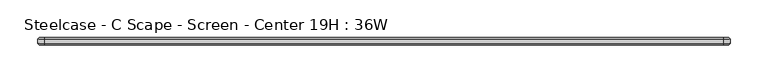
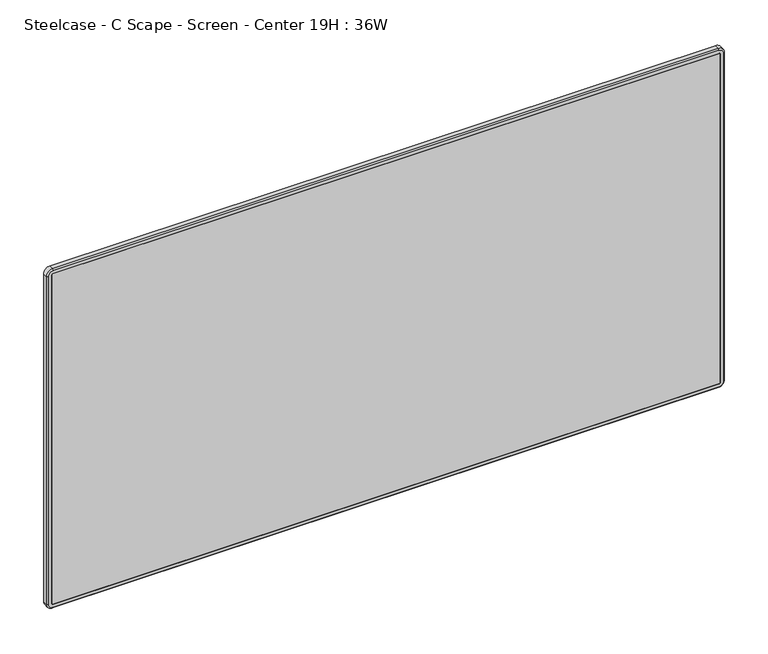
"""IFC4 building model written with IfcOpenShell, lengths in millimetres: furniture geometry, Steelcase - C Scape - Screen - Center 19H : 36W."""

from ifc_helpers import new_model, si_unit, frame, origin, place, context, project, spatial, polyline, circle_curve, outline, extrude, source, transform, mapped, element, save
from ifc_brep_helpers import plane_surface, cylinder_surface, revolved_surface, advanced_brep


def steelcase_c_scape_screen_center_19h_36w_7ab424b2(model_context):
    return source(origin(), model_context, "Body", "SolidModel", [
        advanced_brep(
        [(6.3501994, -7.9375, 1222.6655677), (8.21859, -7.9375, 1224.5339583), (8.21859, -17.4625, 1224.5339583), (6.3501994, -17.4625, 1222.6655677), (0.0002237, -9.6896209, 1222.6655677), (8.21859, -9.6896209, 1230.8839341), (8.21859, -7.9375, 1229.1318132), (1.7523445, -7.9375, 1222.6655677), (0.0002237, -15.7098203, 1222.6655677), (8.21859, -15.7098203, 1230.8839341), (1.7529034, -17.4625, 1222.6655677), (8.21859, -17.4625, 1229.1312544), (6.3501994, -17.4625, 756.5023005), (6.3501994, -7.9375, 756.5023005), (1.7523445, -7.9375, 756.5023005), (0.0002237, -9.6896209, 756.5023005), (0.0002237, -15.7098203, 756.5023005), (1.7529034, -17.4625, 756.5023005), (8.21859, -7.9375, 754.6339099), (8.21859, -17.4625, 754.6339099), (8.21859, -9.6896209, 748.2839341), (8.21859, -7.9375, 750.036055), (8.21859, -15.7098203, 748.2839341), (8.21859, -17.4625, 750.0366139), (903.006615, -17.4625, 754.6339099), (903.006615, -7.9375, 754.6339099), (903.006615, -7.9375, 750.036055), (903.006615, -9.6896209, 748.2839341), (903.006615, -15.7098203, 748.2839341), (903.006615, -17.4625, 750.0366139), (904.8750056, -7.9375, 756.5023005), (904.8750056, -17.4625, 756.5023005), (911.2249814, -9.6896209, 756.5023005), (909.4728605, -7.9375, 756.5023005), (911.2249814, -15.7098203, 756.5023005), (909.4723017, -17.4625, 756.5023005), (904.8750056, -17.4625, 1222.6655677), (904.8750056, -7.9375, 1222.6655677), (909.4728605, -7.9375, 1222.6655677), (911.2249814, -9.6896209, 1222.6655677), (911.2249814, -15.7098203, 1222.6655677), (909.4723017, -17.4625, 1222.6655677), (903.006615, -7.9375, 1224.5339583), (903.006615, -17.4625, 1224.5339583), (903.006615, -7.9375, 1229.1318132), (903.006615, -9.6896209, 1230.8839341), (903.006615, -15.7098203, 1230.8839341), (903.006615, -17.4625, 1229.1312544)],
        [
            (0, 1, circle_curve(frame((8.21859, -7.9375, 1222.6655677), z_axis=(0.0, 1.0, 0.0), x_axis=(0.0, 0.0, 1.0)), 1.8683906)),
            (1, 2),
            (2, 3, circle_curve(frame((8.21859, -17.4625, 1222.6655677), z_axis=(0.0, -1.0, 0.0), x_axis=(0.0, 0.0, 1.0)), 1.8683906)),
            (3, 0),
            (4, 5, circle_curve(frame((8.21859, -9.6896209, 1222.6655677), z_axis=(0.0, 1.0, 0.0), x_axis=(0.0, 0.0, 1.0)), 8.2183664)),
            (5, 6),
            (6, 7, circle_curve(frame((8.21859, -7.9375, 1222.6655677), z_axis=(0.0, -1.0, 0.0), x_axis=(0.0, 0.0, 1.0)), 6.4662455)),
            (7, 4),
            (8, 9, circle_curve(frame((8.21859, -15.7098203, 1222.6655677), z_axis=(0.0, 1.0, 0.0), x_axis=(0.0, 0.0, 1.0)), 8.2183664)),
            (9, 5),
            (4, 8),
            (10, 11, circle_curve(frame((8.21859, -17.4625, 1222.6655677), z_axis=(0.0, 1.0, 0.0), x_axis=(0.0, 0.0, 1.0)), 6.4656866)),
            (11, 9),
            (8, 10),
            (3, 12),
            (12, 13),
            (13, 0),
            (7, 14),
            (14, 15),
            (15, 4),
            (15, 16),
            (16, 8),
            (16, 17),
            (17, 10),
            (18, 13, circle_curve(frame((8.21859, -7.9375, 756.5023005), z_axis=(0.0, 1.0, 0.0), x_axis=(-1.0, 0.0, 0.0)), 1.8683906)),
            (12, 19, circle_curve(frame((8.21859, -17.4625, 756.5023005), z_axis=(0.0, -1.0, 0.0), x_axis=(-1.0, 0.0, 0.0)), 1.8683906)),
            (19, 18),
            (20, 15, circle_curve(frame((8.21859, -9.6896209, 756.5023005), z_axis=(0.0, 1.0, 0.0), x_axis=(-1.0, 0.0, 0.0)), 8.2183664)),
            (14, 21, circle_curve(frame((8.21859, -7.9375, 756.5023005), z_axis=(0.0, -1.0, 0.0), x_axis=(-1.0, 0.0, 0.0)), 6.4662455)),
            (21, 20),
            (22, 16, circle_curve(frame((8.21859, -15.7098203, 756.5023005), z_axis=(0.0, 1.0, 0.0), x_axis=(-1.0, 0.0, 0.0)), 8.2183664)),
            (20, 22),
            (23, 17, circle_curve(frame((8.21859, -17.4625, 756.5023005), z_axis=(0.0, 1.0, 0.0), x_axis=(-1.0, 0.0, 0.0)), 6.4656866)),
            (22, 23),
            (19, 24),
            (24, 25),
            (25, 18),
            (21, 26),
            (26, 27),
            (27, 20),
            (27, 28),
            (28, 22),
            (28, 29),
            (29, 23),
            (30, 25, circle_curve(frame((903.006615, -7.9375, 756.5023005), z_axis=(0.0, 1.0, 0.0), x_axis=(0.0, 0.0, -1.0)), 1.8683906)),
            (24, 31, circle_curve(frame((903.006615, -17.4625, 756.5023005), z_axis=(0.0, -1.0, 0.0), x_axis=(0.0, 0.0, -1.0)), 1.8683906)),
            (31, 30),
            (32, 27, circle_curve(frame((903.006615, -9.6896209, 756.5023005), z_axis=(0.0, 1.0, 0.0), x_axis=(0.0, 0.0, -1.0)), 8.2183664)),
            (26, 33, circle_curve(frame((903.006615, -7.9375, 756.5023005), z_axis=(0.0, -1.0, 0.0), x_axis=(0.0, 0.0, -1.0)), 6.4662455)),
            (33, 32),
            (34, 28, circle_curve(frame((903.006615, -15.7098203, 756.5023005), z_axis=(0.0, 1.0, 0.0), x_axis=(0.0, 0.0, -1.0)), 8.2183664)),
            (32, 34),
            (35, 29, circle_curve(frame((903.006615, -17.4625, 756.5023005), z_axis=(0.0, 1.0, 0.0), x_axis=(0.0, 0.0, -1.0)), 6.4656866)),
            (34, 35),
            (31, 36),
            (36, 37),
            (37, 30),
            (33, 38),
            (38, 39),
            (39, 32),
            (39, 40),
            (40, 34),
            (40, 41),
            (41, 35),
            (42, 37, circle_curve(frame((903.006615, -7.9375, 1222.6655677), z_axis=(0.0, 1.0, 0.0), x_axis=(1.0, 0.0, 0.0)), 1.8683906)),
            (36, 43, circle_curve(frame((903.006615, -17.4625, 1222.6655677), z_axis=(0.0, -1.0, 0.0), x_axis=(1.0, 0.0, 0.0)), 1.8683906)),
            (43, 42),
            (44, 38, circle_curve(frame((903.006615, -7.9375, 1222.6655677), z_axis=(0.0, 1.0, 0.0), x_axis=(1.0, 0.0, 0.0)), 6.4662455)),
            (6, 44),
            (42, 1),
            (45, 39, circle_curve(frame((903.006615, -9.6896209, 1222.6655677), z_axis=(0.0, 1.0, 0.0), x_axis=(1.0, 0.0, 0.0)), 8.2183664)),
            (44, 45),
            (46, 40, circle_curve(frame((903.006615, -15.7098203, 1222.6655677), z_axis=(0.0, 1.0, 0.0), x_axis=(1.0, 0.0, 0.0)), 8.2183664)),
            (45, 46),
            (47, 41, circle_curve(frame((903.006615, -17.4625, 1222.6655677), z_axis=(0.0, 1.0, 0.0), x_axis=(1.0, 0.0, 0.0)), 6.4656866)),
            (46, 47),
            (47, 11),
            (2, 43),
            (5, 45),
            (9, 46),
        ],
        [
            revolved_surface(polyline([(8.21859, -17.4625, 1224.5339583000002), (8.21859, -7.9375, 1224.5339583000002)]), (8.21859, -7.9375, 1222.6655677), (0.0, -1.0, 0.0)),
            revolved_surface(polyline([(8.21859, -7.9375, 1229.1318132), (8.21859, -9.6896209, 1230.8839341)]), (8.21859, -7.9375, 1222.6655677), (0.0, -1.0, 0.0)),
            cylinder_surface(frame((8.21859, -7.9375, 1222.6655677), z_axis=(0.0, -1.0, 0.0), x_axis=(0.0, 0.0, 1.0)), 8.2183664),
            revolved_surface(polyline([(8.21859, -15.7098203, 1230.8839341), (8.21859, -17.4625, 1229.1312544)]), (8.21859, -7.9375, 1222.6655677), (0.0, -1.0, 0.0)),
            plane_surface(frame((6.3501994, -17.4625, 1222.6655677), z_axis=(1.0, 0.0, 0.0), x_axis=(0.0, 0.0, -1.0))),
            plane_surface(frame((1.7523445, -7.9375, 1222.6655677), z_axis=(-0.707106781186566, 0.707106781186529, 0.0), x_axis=(0.0, 0.0, -1.0))),
            plane_surface(frame((0.0002237, -9.6896209, 1222.6655677), z_axis=(-1.0, 0.0, 0.0), x_axis=(0.0, 0.0, -1.0))),
            plane_surface(frame((0.0002237, -15.7098203, 1222.6655677), z_axis=(-0.7071067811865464, -0.7071067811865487, 0.0), x_axis=(0.0, 0.0, -1.0))),
            revolved_surface(polyline([(6.350199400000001, -17.4625, 756.5023005), (6.350199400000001, -7.9375, 756.5023005)]), (8.21859, -7.9375, 756.5023005), (0.0, -1.0, 0.0)),
            revolved_surface(polyline([(1.7523445, -7.9375, 756.5023005), (0.0002237, -9.6896209, 756.5023005)]), (8.21859, -7.9375, 756.5023005), (0.0, -1.0, 0.0)),
            cylinder_surface(frame((8.21859, -7.9375, 756.5023005), z_axis=(0.0, -1.0, 0.0), x_axis=(-1.0, 0.0, 0.0)), 8.2183664),
            revolved_surface(polyline([(0.0002237, -15.7098203, 756.5023005), (1.7529034, -17.4625, 756.5023005)]), (8.21859, -7.9375, 756.5023005), (0.0, -1.0, 0.0)),
            plane_surface(frame((8.21859, -17.4625, 754.6339099), z_axis=(0.0, 0.0, 1.0), x_axis=(1.0, 0.0, 0.0))),
            plane_surface(frame((8.21859, -7.9375, 750.036055), z_axis=(0.0, 0.7071067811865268, -0.7071067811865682), x_axis=(1.0, 0.0, 0.0))),
            plane_surface(frame((8.21859, -9.6896209, 748.2839341), z_axis=(0.0, 0.0, -1.0), x_axis=(1.0, 0.0, 0.0))),
            plane_surface(frame((8.21859, -15.7098203, 748.2839341), z_axis=(0.0, -0.7071067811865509, -0.7071067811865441), x_axis=(1.0, 0.0, 0.0))),
            revolved_surface(polyline([(903.006615, -17.4625, 754.6339099), (903.006615, -7.9375, 754.6339099)]), (903.006615, -7.9375, 756.5023005), (0.0, -1.0, 0.0)),
            revolved_surface(polyline([(903.006615, -7.9375, 750.036055), (903.006615, -9.6896209, 748.2839341)]), (903.006615, -7.9375, 756.5023005), (0.0, -1.0, 0.0)),
            cylinder_surface(frame((903.006615, -7.9375, 756.5023005), z_axis=(0.0, -1.0, 0.0), x_axis=(0.0, 0.0, -1.0)), 8.2183664),
            revolved_surface(polyline([(903.006615, -15.7098203, 748.2839341), (903.006615, -17.4625, 750.0366139)]), (903.006615, -7.9375, 756.5023005), (0.0, -1.0, 0.0)),
            plane_surface(frame((904.8750056, -17.4625, 756.5023005), z_axis=(-1.0, 0.0, 0.0), x_axis=(0.0, 0.0, 1.0))),
            plane_surface(frame((909.4728605, -7.9375, 756.5023005), z_axis=(0.7071067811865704, 0.7071067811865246, 0.0), x_axis=(0.0, 0.0, 1.0))),
            plane_surface(frame((911.2249814, -9.6896209, 756.5023005), z_axis=(1.0, 0.0, 0.0), x_axis=(0.0, 0.0, 1.0))),
            plane_surface(frame((911.2249814, -15.7098203, 756.5023005), z_axis=(0.7071067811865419, -0.7071067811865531, 0.0), x_axis=(0.0, 0.0, 1.0))),
            revolved_surface(polyline([(904.8750056, -17.4625, 1222.6655677), (904.8750056, -7.9375, 1222.6655677)]), (903.006615, -7.9375, 1222.6655677), (0.0, -1.0, 0.0)),
            plane_surface(frame((903.006615, -7.9375, 1222.6655677), z_axis=(0.0, 1.0, 0.0), x_axis=(1.0, 0.0, 0.0))),
            revolved_surface(polyline([(909.4728605, -7.9375, 1222.6655677), (911.2249814, -9.6896209, 1222.6655677)]), (903.006615, -7.9375, 1222.6655677), (0.0, -1.0, 0.0)),
            cylinder_surface(frame((903.006615, -7.9375, 1222.6655677), z_axis=(0.0, -1.0, 0.0), x_axis=(1.0, 0.0, 0.0)), 8.2183664),
            revolved_surface(polyline([(911.2249814, -15.7098203, 1222.6655677), (909.4723017, -17.4625, 1222.6655677)]), (903.006615, -7.9375, 1222.6655677), (0.0, -1.0, 0.0)),
            plane_surface(frame((903.006615, -17.4625, 1222.6655677), z_axis=(0.0, -1.0, 0.0), x_axis=(1.0, 0.0, 0.0))),
            plane_surface(frame((903.006615, -17.4625, 1224.5339583), z_axis=(0.0, 0.0, -1.0), x_axis=(-1.0, 0.0, 0.0))),
            plane_surface(frame((903.006615, -7.9375, 1229.1318132), z_axis=(0.0, 0.7071067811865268, 0.7071067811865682), x_axis=(-1.0, 0.0, 0.0))),
            plane_surface(frame((903.006615, -9.6896209, 1230.8839341), z_axis=(0.0, 0.0, 1.0), x_axis=(-1.0, 0.0, 0.0))),
            plane_surface(frame((903.006615, -15.7098203, 1230.8839341), z_axis=(0.0, -0.7071067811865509, 0.7071067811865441), x_axis=(-1.0, 0.0, 0.0))),
        ],
        [
            (0, [[1, 2, 3, 4]]),
            (1, [[5, 6, 7, 8]]),
            (2, [[9, 10, -5, 11]]),
            (3, [[12, 13, -9, 14]]),
            (4, [[-4, 15, 16, 17]]),
            (5, [[-8, 18, 19, 20]]),
            (6, [[-11, -20, 21, 22]]),
            (7, [[-14, -22, 23, 24]]),
            (8, [[25, -16, 26, 27]]),
            (9, [[28, -19, 29, 30]]),
            (10, [[31, -21, -28, 32]]),
            (11, [[33, -23, -31, 34]]),
            (12, [[-27, 35, 36, 37]]),
            (13, [[-30, 38, 39, 40]]),
            (14, [[-32, -40, 41, 42]]),
            (15, [[-34, -42, 43, 44]]),
            (16, [[45, -36, 46, 47]]),
            (17, [[48, -39, 49, 50]]),
            (18, [[51, -41, -48, 52]]),
            (19, [[53, -43, -51, 54]]),
            (20, [[-47, 55, 56, 57]]),
            (21, [[-50, 58, 59, 60]]),
            (22, [[-52, -60, 61, 62]]),
            (23, [[-54, -62, 63, 64]]),
            (24, [[65, -56, 66, 67]]),
            (25, [[68, -58, -49, -38, -29, -18, -7, 69], [-37, -45, -57, -65, 70, -1, -17, -25]]),
            (26, [[71, -59, -68, 72]]),
            (27, [[73, -61, -71, 74]]),
            (28, [[75, -63, -73, 76]]),
            (29, [[-44, -53, -64, -75, 77, -12, -24, -33], [-66, -55, -46, -35, -26, -15, -3, 78]]),
            (30, [[-67, -78, -2, -70]]),
            (31, [[-72, -69, -6, 79]]),
            (32, [[-74, -79, -10, 80]]),
            (33, [[-76, -80, -13, -77]]),
        ],
    ),
        extrude(outline(polyline([(904.8750056, -7.9375), (904.8750056, -17.4625), (6.3501994, -17.4625), (6.3501994, -7.9375), (904.8750056, -7.9375)])), frame((0.0, 0.0, 754.6339099), z_axis=(0.0, 0.0, 1.0), x_axis=(1.0, 0.0, 0.0)), (0.0, 0.0, 1.0), 469.9000484),
    ])


if __name__ == "__main__":
    model = new_model("IFC4")
    model_context = context("Model", 3, world=origin())
    ifc_project = project(units=[si_unit("LENGTHUNIT", "METRE", prefix="MILLI")], contexts=[model_context])
    site = spatial("IfcSite", under=ifc_project)
    building = spatial("IfcBuilding", under=site)
    placement = place(None, origin())
    steelcase_c_scape_screen_center_19h_36w_shape = steelcase_c_scape_screen_center_19h_36w_7ab424b2(model_context)
    element("IfcFurniture", 1, ObjectType="Steelcase - C Scape - Screen - Center 19H : 36W", at=placement, inside=building, context=model_context, shape_type="MappedRepresentation", body=[
        mapped(steelcase_c_scape_screen_center_19h_36w_shape, transform((0.0, 0.0, 0.0), x_axis=(1.0, 0.0, 0.0), y_axis=(0.0, 1.0, 0.0), z_axis=(0.0, 0.0, 1.0))),
    ])
    save(model, "model.ifc")
